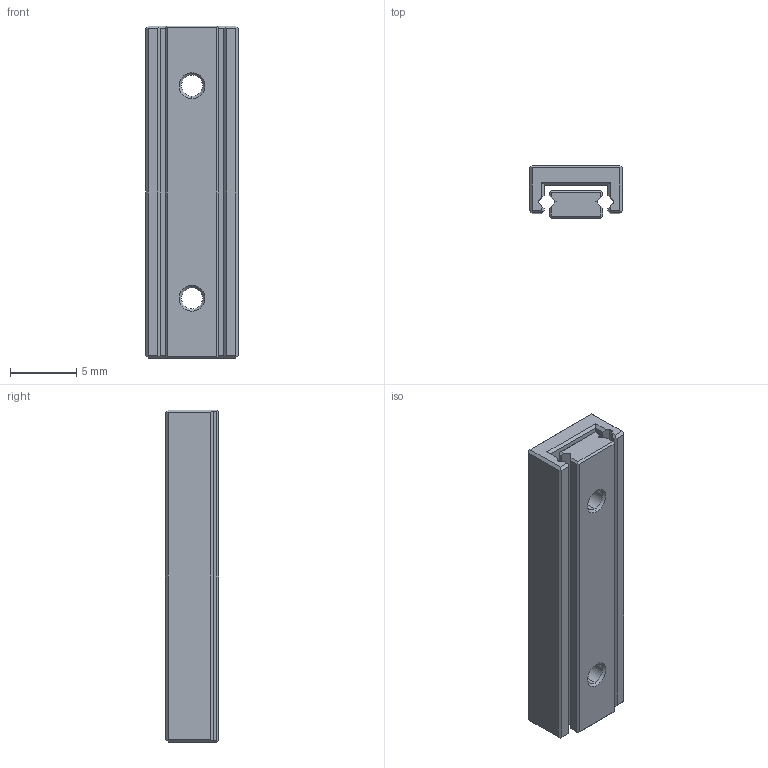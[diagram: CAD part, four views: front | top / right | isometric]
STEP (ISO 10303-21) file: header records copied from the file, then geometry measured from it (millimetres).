
FILE_DESCRIPTION (( 'STEP AP214' ), '1' );
FILE_NAME ('PMM 05-25.STEP', '2012-03-02T10:17:52', ( '' ), ( '' ), 'SwSTEP 2.0', 'SolidWorks 2011', '' );
FILE_SCHEMA (( 'AUTOMOTIVE_DESIGN' ));
Length unit declared in the file: millimetre
Products named in the file (1): PMM 05-25
Bounding box: 7 x 4 x 25 mm (x, y, z)
Volume: 542.1 mm3; surface area: 1007.5 mm2
Topology: 2 solids, 2 shells, 244 faces, 652 edges, 428 vertices
Faces by surface type: plane 174, bspline 43, cone 16, cylinder 11
Entity records: 11385 total; most frequent: CARTESIAN_POINT 3936, ORIENTED_EDGE 1304, DIRECTION 1008, EDGE_CURVE 652, LINE 528, VECTOR 528, VERTEX_POINT 428, EDGE_LOOP 268
